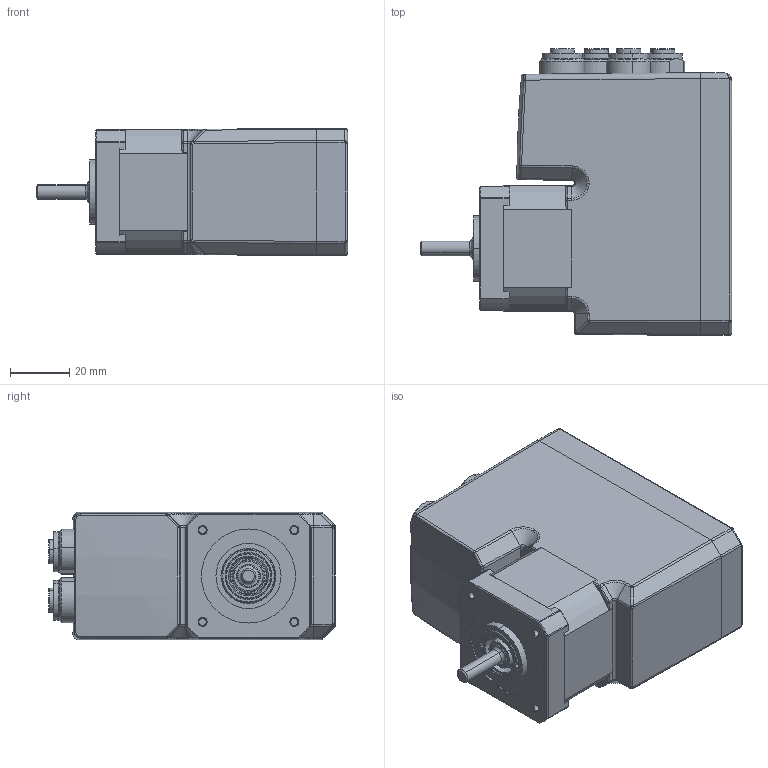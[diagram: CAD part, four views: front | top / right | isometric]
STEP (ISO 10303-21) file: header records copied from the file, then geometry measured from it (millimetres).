
FILE_DESCRIPTION((''),'2;1');
FILE_NAME('STEPPERASSY_ASM','2023-07-16T19:26:42',('KaviarasanNagaraj'),(''),'CREO PARAMETRIC BY PTC INC, 2021063','CREO PARAMETRIC BY PTC INC, 2021063','');
FILE_SCHEMA(('AUTOMOTIVE_DESIGN { 1 0 10303 214 1 1 1 1 }'));
Length unit declared in the file: millimetre
Products named in the file (7): CONNECTOR_RADIAL; BODY; FRONT; SHAFT_5; SEALING; MIS17_ASM; STEPPERASSY_ASM
Assembly tree (6 placements, depth 3):
  STEPPERASSY_ASM
    MIS17_ASM
      CONNECTOR_RADIAL
      BODY
      FRONT
      SHAFT_5
      SEALING
Bounding box: 105.2 x 96.94 x 43.06 mm (x, y, z)
Volume: 285117.3 mm3; surface area: 40766 mm2
Topology: 5 solids, 5 shells, 522 faces, 1193 edges, 700 vertices
Faces by surface type: plane 178, cylinder 175, cone 82, bspline 43, torus 40, sphere 4
Entity records: 24544 total; most frequent: CARTESIAN_POINT 5451, DIRECTION 2692, ORIENTED_EDGE 2362, EDGE_CURVE 1181, AXIS2_PLACEMENT_3D 1059, FILL_AREA_STYLE_COLOUR 766, FILL_AREA_STYLE 766, SURFACE_STYLE_FILL_AREA 766
